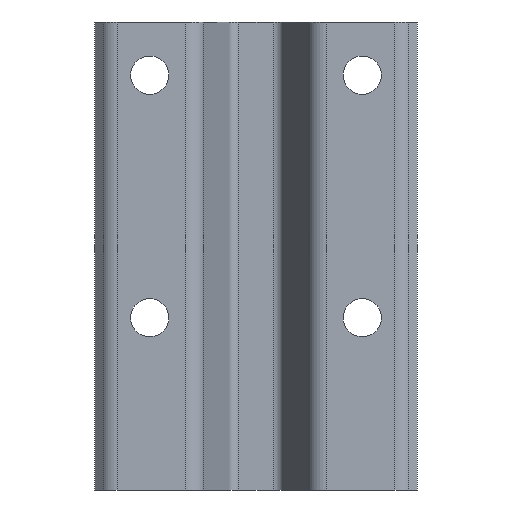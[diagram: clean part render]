
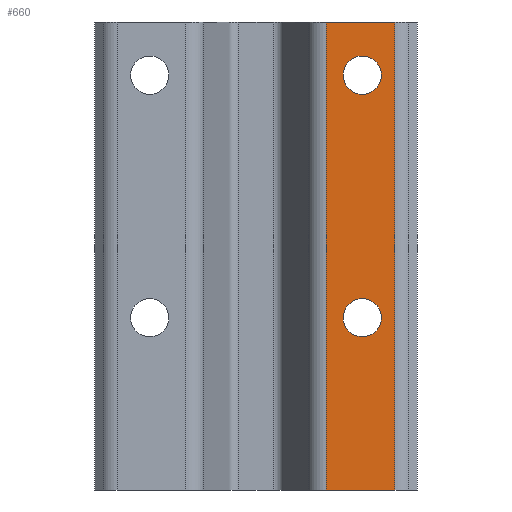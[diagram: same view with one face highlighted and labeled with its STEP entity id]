
A CAD part, front view. The second image highlights one B-rep face of the part: STEP entity #660.
In plain terms, the highlighted planar face has unit normal (0, -1, 0).
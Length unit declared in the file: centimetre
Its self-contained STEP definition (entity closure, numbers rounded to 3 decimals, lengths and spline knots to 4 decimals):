
#18=FACE_BOUND('',#93,.T.);
#19=FACE_BOUND('',#94,.T.);
#30=PLANE('',#712);
#56=FACE_OUTER_BOUND('',#92,.T.);
#92=EDGE_LOOP('',(#496,#497,#498,#499));
#93=EDGE_LOOP('',(#500));
#94=EDGE_LOOP('',(#501));
#144=LINE('',#1032,#208);
#145=LINE('',#1036,#209);
#146=LINE('',#1038,#210);
#147=LINE('',#1039,#211);
#208=VECTOR('',#834,0.1);
#209=VECTOR('',#839,0.1);
#210=VECTOR('',#840,0.1);
#211=VECTOR('',#841,0.1);
#249=CIRCLE('',#687,0.9);
#251=CIRCLE('',#690,0.9);
#281=VERTEX_POINT('',#956);
#283=VERTEX_POINT('',#962);
#306=VERTEX_POINT('',#1029);
#307=VERTEX_POINT('',#1031);
#308=VERTEX_POINT('',#1035);
#309=VERTEX_POINT('',#1037);
#347=EDGE_CURVE('',#281,#281,#249,.T.);
#350=EDGE_CURVE('',#283,#283,#251,.T.);
#383=EDGE_CURVE('',#307,#306,#144,.T.);
#385=EDGE_CURVE('',#306,#308,#145,.T.);
#386=EDGE_CURVE('',#309,#308,#146,.T.);
#387=EDGE_CURVE('',#309,#307,#147,.T.);
#496=ORIENTED_EDGE('',*,*,#385,.T.);
#497=ORIENTED_EDGE('',*,*,#386,.F.);
#498=ORIENTED_EDGE('',*,*,#387,.T.);
#499=ORIENTED_EDGE('',*,*,#383,.T.);
#500=ORIENTED_EDGE('',*,*,#347,.T.);
#501=ORIENTED_EDGE('',*,*,#350,.T.);
#660=ADVANCED_FACE('',(#56,#18,#19),#30,.T.);
#687=AXIS2_PLACEMENT_3D('',#958,#762,#763);
#690=AXIS2_PLACEMENT_3D('',#964,#769,#770);
#712=AXIS2_PLACEMENT_3D('',#1034,#837,#838);
#762=DIRECTION('center_axis',(0.,1.,0.));
#763=DIRECTION('ref_axis',(1.,0.,0.));
#769=DIRECTION('center_axis',(0.,1.,0.));
#770=DIRECTION('ref_axis',(1.,0.,0.));
#834=DIRECTION('',(0.,0.,1.));
#837=DIRECTION('center_axis',(0.,-1.,0.));
#838=DIRECTION('ref_axis',(0.,0.,-1.));
#839=DIRECTION('',(-1.,0.,0.));
#840=DIRECTION('',(0.,0.,1.));
#841=DIRECTION('',(1.,0.,0.));
#956=CARTESIAN_POINT('',(-51.8958,95.6396,19.5));
#958=CARTESIAN_POINT('Origin',(-50.9958,95.6396,19.5));
#962=CARTESIAN_POINT('',(-51.8958,95.6396,8.1));
#964=CARTESIAN_POINT('Origin',(-50.9958,95.6396,8.1));
#1029=CARTESIAN_POINT('',(-49.4706,95.6396,22.));
#1031=CARTESIAN_POINT('',(-49.4706,95.6396,0.));
#1032=CARTESIAN_POINT('',(-49.4706,95.6396,0.));
#1034=CARTESIAN_POINT('Origin',(-49.4706,95.6396,0.));
#1035=CARTESIAN_POINT('',(-52.685,95.6396,22.));
#1036=CARTESIAN_POINT('',(-52.685,95.6396,22.));
#1037=CARTESIAN_POINT('',(-52.685,95.6396,0.));
#1038=CARTESIAN_POINT('',(-52.685,95.6396,0.));
#1039=CARTESIAN_POINT('',(-52.685,95.6396,0.));
